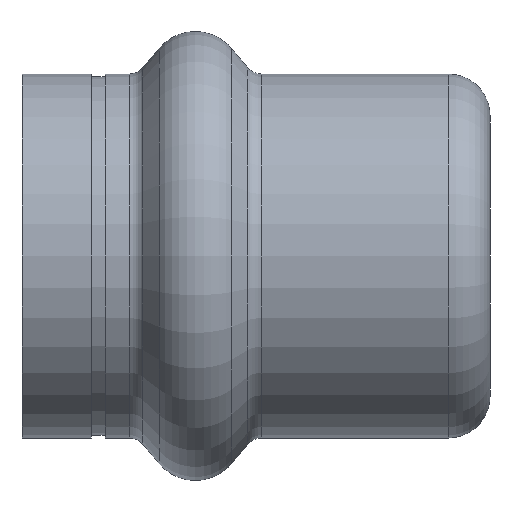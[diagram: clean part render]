
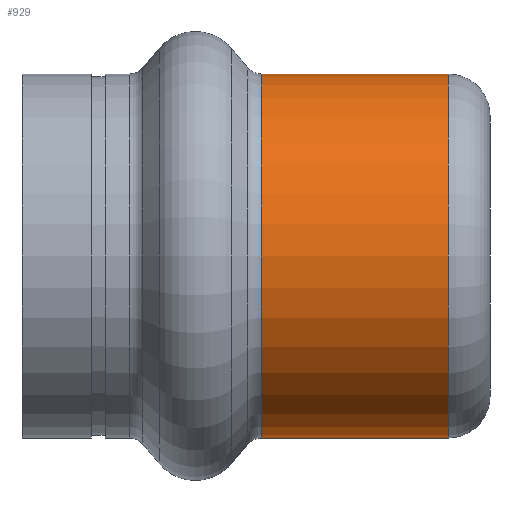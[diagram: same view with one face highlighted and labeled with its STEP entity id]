
A CAD part, front view. The second image highlights one B-rep face of the part: STEP entity #929.
In plain terms, the highlighted cylindrical face has radius 10.5 mm (diameter 21 mm), a partial arc.
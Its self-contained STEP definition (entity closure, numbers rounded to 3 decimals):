
#67 = AXIS2_PLACEMENT_3D ( 'NONE', #849, #875, #823 ) ;
#123 = CARTESIAN_POINT ( 'NONE',  ( 16.793, 0., 10.5 ) ) ;
#147 = CARTESIAN_POINT ( 'NONE',  ( -7.298, 0., -10.5 ) ) ;
#162 = DIRECTION ( 'NONE',  ( -1., 0., 0. ) ) ;
#192 = EDGE_LOOP ( 'NONE', ( #481, #517, #549, #580 ) ) ;
#211 = CIRCLE ( 'NONE', #402, 10.5 ) ;
#221 = EDGE_CURVE ( 'NONE', #1088, #223, #362, .T. ) ;
#223 = VERTEX_POINT ( 'NONE', #226 ) ;
#226 = CARTESIAN_POINT ( 'NONE',  ( 16.793, 0., -10.5 ) ) ;
#314 = CARTESIAN_POINT ( 'NONE',  ( 16.793, 0., 0. ) ) ;
#321 = DIRECTION ( 'NONE',  ( 1., 0., 0. ) ) ;
#326 = DIRECTION ( 'NONE',  ( 0., 0., -1. ) ) ;
#338 = CARTESIAN_POINT ( 'NONE',  ( 27.6, 0., -10.5 ) ) ;
#362 = LINE ( 'NONE', #147, #364 ) ;
#364 = VECTOR ( 'NONE', #162, 1000. ) ;
#402 = AXIS2_PLACEMENT_3D ( 'NONE', #314, #321, #326 ) ;
#455 = VERTEX_POINT ( 'NONE', #123 ) ;
#463 = FACE_OUTER_BOUND ( 'NONE', #192, .T. ) ;
#467 = EDGE_CURVE ( 'NONE', #455, #223, #211, .T. ) ;
#481 = ORIENTED_EDGE ( 'NONE', *, *, #221, .F. ) ;
#517 = ORIENTED_EDGE ( 'NONE', *, *, #1045, .T. ) ;
#549 = ORIENTED_EDGE ( 'NONE', *, *, #1361, .T. ) ;
#570 = VERTEX_POINT ( 'NONE', #659 ) ;
#580 = ORIENTED_EDGE ( 'NONE', *, *, #467, .T. ) ;
#659 = CARTESIAN_POINT ( 'NONE',  ( 27.6, 0., 10.5 ) ) ;
#671 = LINE ( 'NONE', #928, #1049 ) ;
#694 = CIRCLE ( 'NONE', #1232, 10.5 ) ;
#743 = DIRECTION ( 'NONE',  ( -1., 0., 0. ) ) ;
#823 = DIRECTION ( 'NONE',  ( 0., 0., 1. ) ) ;
#849 = CARTESIAN_POINT ( 'NONE',  ( -7.298, 0., 0. ) ) ;
#875 = DIRECTION ( 'NONE',  ( -1., 0., 0. ) ) ;
#928 = CARTESIAN_POINT ( 'NONE',  ( -7.298, 0., 10.5 ) ) ;
#929 = ADVANCED_FACE ( 'NONE', ( #463 ), #1004, .T. ) ;
#1004 = CYLINDRICAL_SURFACE ( 'NONE', #67, 10.5 ) ;
#1045 = EDGE_CURVE ( 'NONE', #1088, #570, #694, .T. ) ;
#1049 = VECTOR ( 'NONE', #743, 1000. ) ;
#1088 = VERTEX_POINT ( 'NONE', #338 ) ;
#1180 = DIRECTION ( 'NONE',  ( 0., 0., 1. ) ) ;
#1184 = DIRECTION ( 'NONE',  ( -1., 0., 0. ) ) ;
#1207 = CARTESIAN_POINT ( 'NONE',  ( 27.6, 0., 0. ) ) ;
#1232 = AXIS2_PLACEMENT_3D ( 'NONE', #1207, #1184, #1180 ) ;
#1361 = EDGE_CURVE ( 'NONE', #570, #455, #671, .T. ) ;
